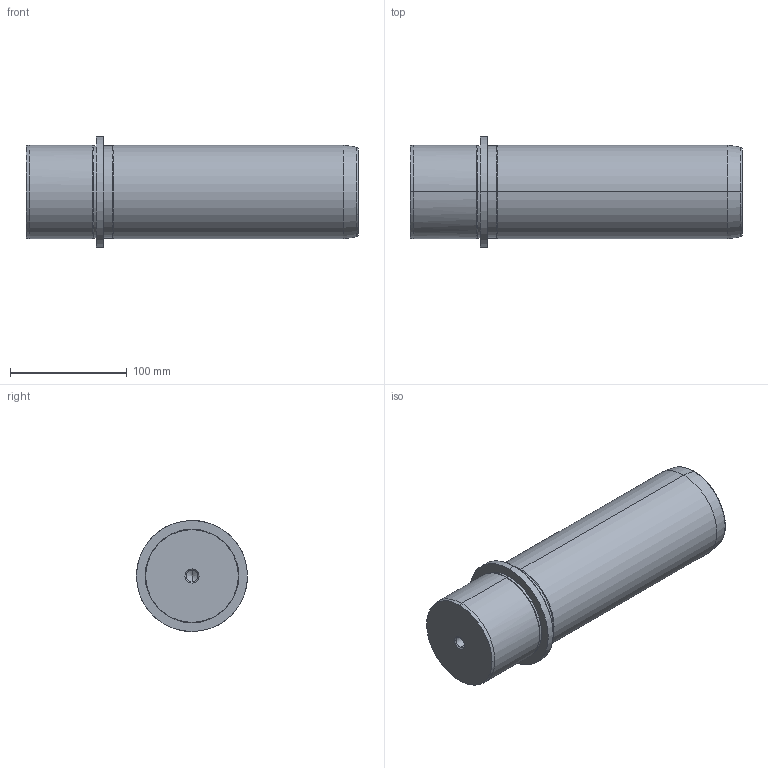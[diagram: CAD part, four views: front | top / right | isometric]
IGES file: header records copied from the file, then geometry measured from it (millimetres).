
Start section: START RECORD GO HERE.
Global section: file name: 718-80x224.igs; native system: DASSAULT SYSTEMES CATIA V5 R20 - www.3ds.com; preprocessor: CATIA Version 5 Release 20 ; author: Utente; organization: NB04-ASUS; date: 20210102.083655; units: millimetre
Bounding box: 284 x 95 x 95 mm (x, y, z)
Surface area: 87006.6 mm2 (no closed solid volume)
Topology: 0 solids, 0 shells, 36 faces, 220 edges, 216 vertices
Faces by surface type: revolution 32, plane 4
